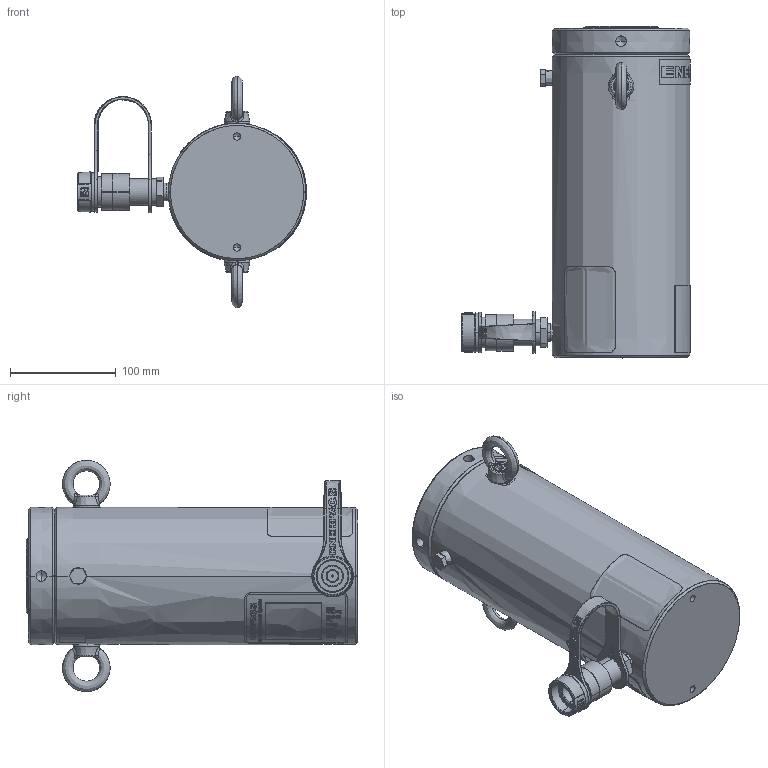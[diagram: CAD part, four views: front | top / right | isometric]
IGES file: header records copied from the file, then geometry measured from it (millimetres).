
Start section:  PTC IGES file: hcl508.igs
Global section: file name: hcl508.igs; native system: Creo Parametric by PTC Inc.; preprocessor: 2015290; author: Akhilesh.Subrahmanya; organization: Unknown; date: 20170621.155450; units: millimetre
Bounding box: 216.62 x 314 x 219 mm (x, y, z)
Surface area: 373359 mm2 (no closed solid volume)
Topology: 0 solids, 0 shells, 740 faces, 6494 edges, 6475 vertices
Faces by surface type: revolution 411, bspline 310, extrusion 19
